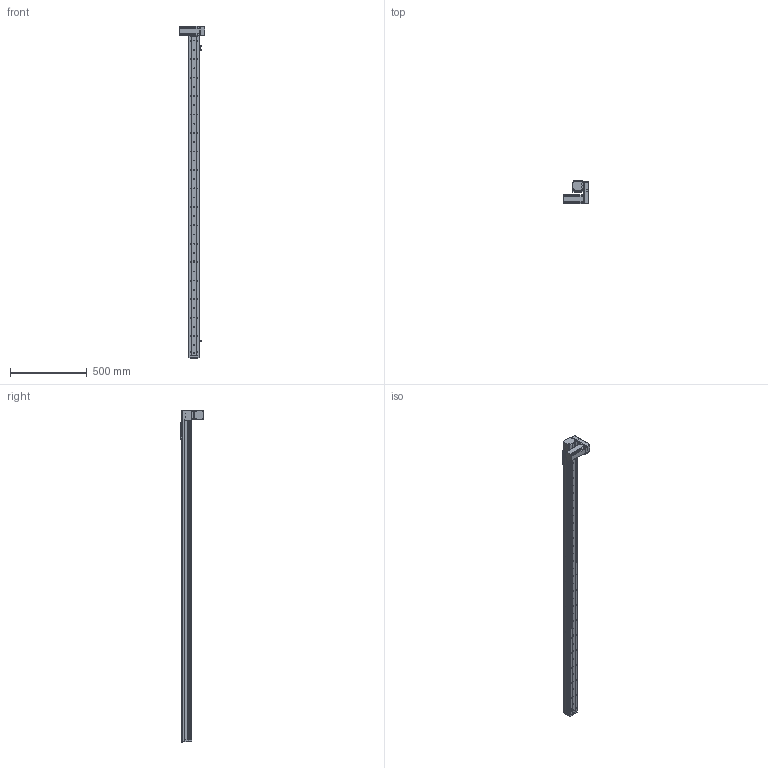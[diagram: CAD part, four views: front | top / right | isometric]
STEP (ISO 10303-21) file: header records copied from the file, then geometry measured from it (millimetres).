
FILE_DESCRIPTION (( 'STEP AP214' ), '1' );
FILE_NAME ('KSD68BS-S1900-MLD-CR.STEP', '2019-08-27T06:15:59', ( '微软用户' ), ( '微软中国' ), 'SwSTEP 2.0', 'SolidWorks 2014', '' );
FILE_SCHEMA (( 'AUTOMOTIVE_DESIGN' ));
Length unit declared in the file: millimetre
Products named in the file (14): 68宽单导轨全封闭同步带端板; 68单导轨全封闭同步带电机座左; KSD68BS 1900行程侧板全封闭; KSD68BS 1900行程盖板全封闭; KSD68BS-S1900-MLD-CR; 68宽单导轨全封闭丝杆传动安装板1防护罩; 68单导轨全封闭同步带安装板; 68宽马达安装板连板上折同步带; 悵誘欶奻狟殏; 感应片68宽全封闭; KSD68BS 1900行程底板全封闭; U倰嫖萇EEㄜSX672; 台达ECMA－C20604AS伺服电机（400W); 68遵裔啣揤啣1
Assembly tree (17 placements, depth 2):
  KSD68BS-S1900-MLD-CR
    KSD68BS 1900行程底板全封闭
    台达ECMA－C20604AS伺服电机（400W)
    U倰嫖萇EEㄜSX672  x3
    感应片68宽全封闭
    68宽马达安装板连板上折同步带
    悵誘欶奻狟殏
    68单导轨全封闭同步带安装板
    68单导轨全封闭同步带电机座左
    68宽单导轨全封闭同步带端板
    KSD68BS 1900行程侧板全封闭  x2
    68宽单导轨全封闭丝杆传动安装板1防护罩
    68遵裔啣揤啣1  x2
    KSD68BS 1900行程盖板全封闭
Bounding box: 167.2 x 155.5 x 2158.1 mm (x, y, z)
Volume: 3749105.7 mm3; surface area: 1543839.2 mm2
Topology: 18 solids, 18 shells, 1651 faces, 4781 edges, 3042 vertices
Faces by surface type: cylinder 822, plane 629, cone 200
Entity records: 54575 total; most frequent: CARTESIAN_POINT 9577, DIRECTION 8096, ORIENTED_EDGE 7750, EDGE_CURVE 3875, AXIS2_PLACEMENT_3D 2965, VERTEX_POINT 2540, LINE 2166, VECTOR 2166
